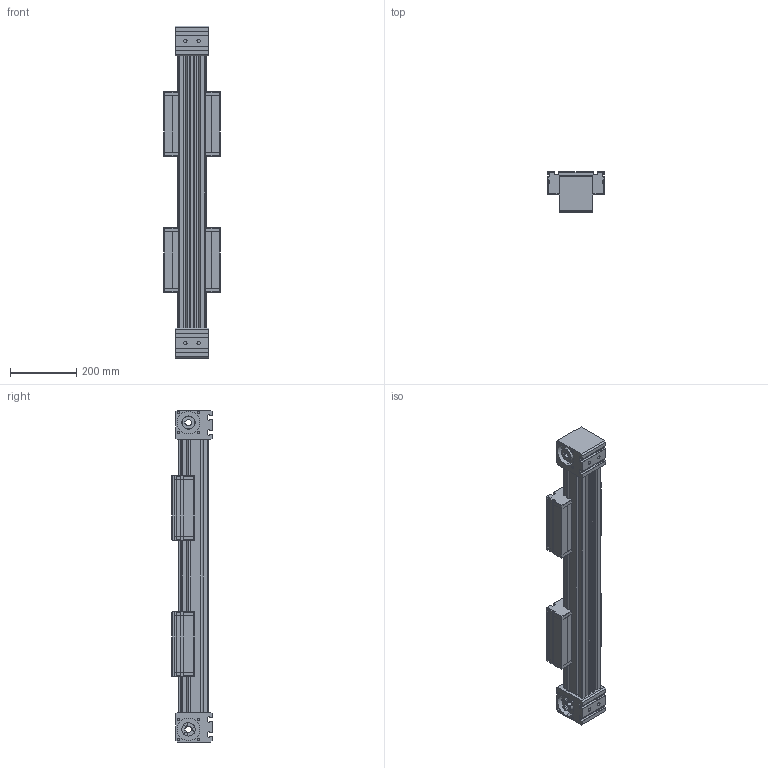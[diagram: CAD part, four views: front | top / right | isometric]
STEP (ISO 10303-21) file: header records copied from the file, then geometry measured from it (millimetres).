
FILE_DESCRIPTION (( 'STEP AP214' ), '1' );
FILE_NAME ('ELZZ80.STEP', '2022-07-19T13:13:35', ( '' ), ( '' ), 'SwSTEP 2.0', 'SolidWorks 2020', '' );
FILE_SCHEMA (( 'AUTOMOTIVE_DESIGN' ));
Length unit declared in the file: millimetre
Products named in the file (4): ELZZ80; carriage^ELZZ80_carriage version 0; profile^ELZZ80_2x guide rods; timing belt reverse unit^ELZZ80_coupling claw pos.1
Assembly tree (5 placements, depth 2):
  ELZZ80
    profile^ELZZ80_2x guide rods
    carriage^ELZZ80_carriage version 0  x2
    timing belt reverse unit^ELZZ80_coupling claw pos.1  x2
Bounding box: 170 x 121 x 1000 mm (x, y, z)
Volume: 9263780.7 mm3; surface area: 1026100.5 mm2
Topology: 13 solids, 13 shells, 1010 faces, 2736 edges, 1732 vertices
Faces by surface type: plane 606, cylinder 336, bspline 32, torus 16, sphere 16, cone 4
Entity records: 20378 total; most frequent: CARTESIAN_POINT 3516, ORIENTED_EDGE 2916, DIRECTION 2854, EDGE_CURVE 1458, VECTOR 1078, LINE 1078, VERTEX_POINT 942, AXIS2_PLACEMENT_3D 888
